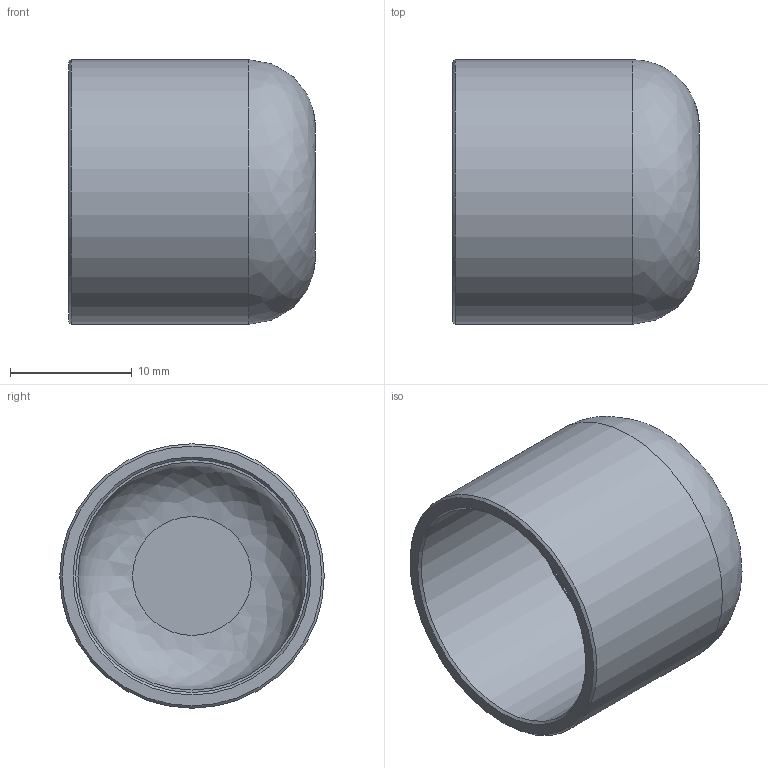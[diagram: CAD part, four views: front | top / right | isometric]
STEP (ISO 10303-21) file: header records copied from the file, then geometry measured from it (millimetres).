
FILE_DESCRIPTION((''),'2;1');
FILE_NAME('G:\SANHA-Ternat\Technik\Management\Bouwmaten + markeringen\z-maattekeningen 3D\29000s\2930134_3d.stp','2017-08-04T13:18:32',('vdvijverd'),(''),'Autodesk Inventor 2009','Autodesk Inventor 2009','');
FILE_SCHEMA(('AUTOMOTIVE_DESIGN { 1 0 10303 214 1 1 1 1 }'));
Length unit declared in the file: millimetre
Products named in the file (1): 2930134_3d
Bounding box: 20.3 x 21.77 x 21.77 mm (x, y, z)
Volume: 1971.2 mm3; surface area: 2957 mm2
Topology: 1 solids, 1 shells, 11 faces, 17 edges, 10 vertices
Faces by surface type: plane 4, cylinder 3, cone 2, bspline 2
Full cylindrical faces by diameter (mm): 18.77 x1, 19.17 x1, 21.77 x1
Entity records: 320 total; most frequent: CARTESIAN_POINT 120, DIRECTION 40, AXIS2_PLACEMENT_3D 20, ORIENTED_EDGE 20, EDGE_LOOP 20, FACE_OUTER_BOUND 11, ADVANCED_FACE 11, VERTEX_POINT 10
